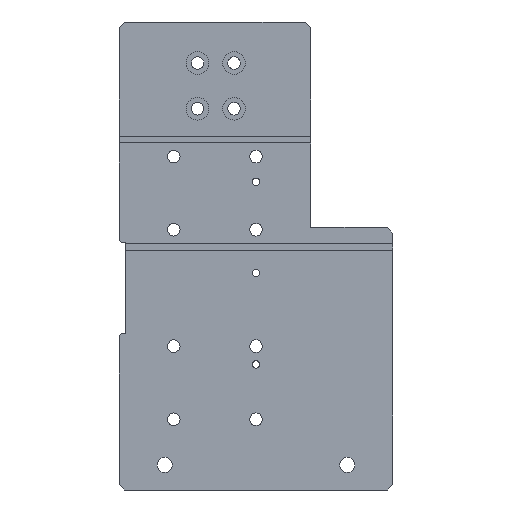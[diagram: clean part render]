
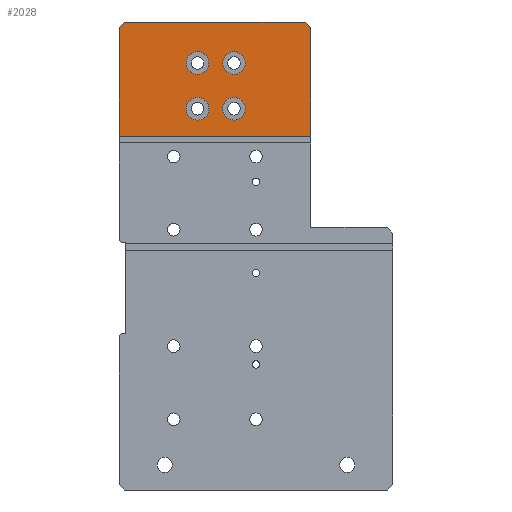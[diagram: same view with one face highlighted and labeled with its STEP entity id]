
A CAD part, front view. The second image highlights one B-rep face of the part: STEP entity #2028.
In plain terms, the highlighted planar face has unit normal (0, -1, 0).
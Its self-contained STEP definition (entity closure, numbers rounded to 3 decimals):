
#10 = CIRCLE ( 'NONE', #646, 5. ) ;
#91 = DIRECTION ( 'NONE',  ( 0., 1., 0. ) ) ;
#159 = DIRECTION ( 'NONE',  ( -0.707, 0., -0.707 ) ) ;
#182 = CARTESIAN_POINT ( 'NONE',  ( -25.6, -5., 89.5 ) ) ;
#316 = CARTESIAN_POINT ( 'NONE',  ( -9.6, -5., 84.5 ) ) ;
#324 = LINE ( 'NONE', #2972, #1102 ) ;
#333 = VECTOR ( 'NONE', #561, 1000. ) ;
#364 = DIRECTION ( 'NONE',  ( 0., 0., -1. ) ) ;
#375 = PLANE ( 'NONE',  #3117 ) ;
#390 = CIRCLE ( 'NONE', #2819, 5. ) ;
#404 = CARTESIAN_POINT ( 'NONE',  ( -60., -5., 52.5 ) ) ;
#410 = LINE ( 'NONE', #1333, #1715 ) ;
#433 = CARTESIAN_POINT ( 'NONE',  ( -9.6, -5., 79.5 ) ) ;
#474 = EDGE_LOOP ( 'NONE', ( #1454, #1436 ) ) ;
#482 = VERTEX_POINT ( 'NONE', #3539 ) ;
#494 = EDGE_LOOP ( 'NONE', ( #637, #2426 ) ) ;
#521 = EDGE_CURVE ( 'NONE', #3356, #2235, #1801, .T. ) ;
#546 = LINE ( 'NONE', #2064, #2640 ) ;
#556 = VERTEX_POINT ( 'NONE', #1957 ) ;
#561 = DIRECTION ( 'NONE',  ( -1., 0., 0. ) ) ;
#583 = DIRECTION ( 'NONE',  ( 0., -1., 0. ) ) ;
#587 = AXIS2_PLACEMENT_3D ( 'NONE', #1382, #3058, #1089 ) ;
#637 = ORIENTED_EDGE ( 'NONE', *, *, #2043, .F. ) ;
#640 = CARTESIAN_POINT ( 'NONE',  ( -25.6, -5., 84.5 ) ) ;
#646 = AXIS2_PLACEMENT_3D ( 'NONE', #3031, #1676, #1403 ) ;
#731 = DIRECTION ( 'NONE',  ( 0., 0., 1. ) ) ;
#770 = CARTESIAN_POINT ( 'NONE',  ( -9.6, -5., 89.5 ) ) ;
#823 = EDGE_CURVE ( 'NONE', #482, #2215, #966, .T. ) ;
#874 = EDGE_CURVE ( 'NONE', #912, #1796, #2312, .T. ) ;
#888 = DIRECTION ( 'NONE',  ( 0., -1., 0. ) ) ;
#898 = CARTESIAN_POINT ( 'NONE',  ( -9.6, -5., 59.5 ) ) ;
#912 = VERTEX_POINT ( 'NONE', #898 ) ;
#964 = CARTESIAN_POINT ( 'NONE',  ( -25.6, -5., 59.5 ) ) ;
#966 = CIRCLE ( 'NONE', #1811, 5. ) ;
#1001 = EDGE_LOOP ( 'NONE', ( #3236, #1661 ) ) ;
#1002 = DIRECTION ( 'NONE',  ( 0., -1., 0. ) ) ;
#1007 = FACE_BOUND ( 'NONE', #494, .T. ) ;
#1085 = EDGE_CURVE ( 'NONE', #3356, #1689, #324, .T. ) ;
#1089 = DIRECTION ( 'NONE',  ( 0., 0., -1. ) ) ;
#1102 = VECTOR ( 'NONE', #3526, 1000. ) ;
#1137 = FACE_BOUND ( 'NONE', #1778, .T. ) ;
#1208 = DIRECTION ( 'NONE',  ( -0.707, 0., 0.707 ) ) ;
#1237 = EDGE_CURVE ( 'NONE', #3426, #3482, #2907, .T. ) ;
#1239 = DIRECTION ( 'NONE',  ( 0., -1., 0. ) ) ;
#1251 = VERTEX_POINT ( 'NONE', #2666 ) ;
#1333 = CARTESIAN_POINT ( 'NONE',  ( -60., -5., 102.5 ) ) ;
#1382 = CARTESIAN_POINT ( 'NONE',  ( -25.6, -5., 64.5 ) ) ;
#1403 = DIRECTION ( 'NONE',  ( 0., 0., -1. ) ) ;
#1430 = VERTEX_POINT ( 'NONE', #182 ) ;
#1432 = CIRCLE ( 'NONE', #1643, 5. ) ;
#1436 = ORIENTED_EDGE ( 'NONE', *, *, #823, .F. ) ;
#1440 = CIRCLE ( 'NONE', #587, 5. ) ;
#1454 = ORIENTED_EDGE ( 'NONE', *, *, #2484, .F. ) ;
#1463 = CARTESIAN_POINT ( 'NONE',  ( 24., -5., 52.5 ) ) ;
#1511 = ORIENTED_EDGE ( 'NONE', *, *, #3336, .T. ) ;
#1574 = CARTESIAN_POINT ( 'NONE',  ( -9.6, -5., 69.5 ) ) ;
#1585 = EDGE_LOOP ( 'NONE', ( #2605, #2896, #1900, #1511, #3232, #3237 ) ) ;
#1643 = AXIS2_PLACEMENT_3D ( 'NONE', #3199, #1239, #2934 ) ;
#1661 = ORIENTED_EDGE ( 'NONE', *, *, #1237, .F. ) ;
#1675 = EDGE_CURVE ( 'NONE', #1430, #556, #10, .T. ) ;
#1676 = DIRECTION ( 'NONE',  ( 0., -1., 0. ) ) ;
#1689 = VERTEX_POINT ( 'NONE', #2047 ) ;
#1715 = VECTOR ( 'NONE', #3289, 1000. ) ;
#1761 = DIRECTION ( 'NONE',  ( 0., 0., 1. ) ) ;
#1778 = EDGE_LOOP ( 'NONE', ( #2375, #2193 ) ) ;
#1796 = VERTEX_POINT ( 'NONE', #1574 ) ;
#1801 = LINE ( 'NONE', #2501, #333 ) ;
#1811 = AXIS2_PLACEMENT_3D ( 'NONE', #2398, #583, #2522 ) ;
#1832 = EDGE_CURVE ( 'NONE', #1251, #1938, #410, .T. ) ;
#1837 = LINE ( 'NONE', #2600, #2412 ) ;
#1838 = CIRCLE ( 'NONE', #3305, 5. ) ;
#1857 = AXIS2_PLACEMENT_3D ( 'NONE', #2101, #2458, #3566 ) ;
#1900 = ORIENTED_EDGE ( 'NONE', *, *, #1832, .F. ) ;
#1938 = VERTEX_POINT ( 'NONE', #2977 ) ;
#1957 = CARTESIAN_POINT ( 'NONE',  ( -25.6, -5., 79.5 ) ) ;
#1976 = LINE ( 'NONE', #3337, #2218 ) ;
#1985 = CARTESIAN_POINT ( 'NONE',  ( -60., -5., 100. ) ) ;
#2028 = ADVANCED_FACE ( 'NONE', ( #1137, #2618, #2491, #1007, #3324 ), #375, .F. ) ;
#2043 = EDGE_CURVE ( 'NONE', #556, #1430, #1838, .T. ) ;
#2047 = CARTESIAN_POINT ( 'NONE',  ( 24., -5., 100. ) ) ;
#2064 = CARTESIAN_POINT ( 'NONE',  ( 21.5, -5., 102.5 ) ) ;
#2101 = CARTESIAN_POINT ( 'NONE',  ( -9.6, -5., 84.5 ) ) ;
#2129 = EDGE_CURVE ( 'NONE', #2235, #3499, #1976, .T. ) ;
#2193 = ORIENTED_EDGE ( 'NONE', *, *, #2662, .F. ) ;
#2215 = VERTEX_POINT ( 'NONE', #964 ) ;
#2218 = VECTOR ( 'NONE', #731, 1000. ) ;
#2235 = VERTEX_POINT ( 'NONE', #404 ) ;
#2261 = EDGE_CURVE ( 'NONE', #1689, #1938, #546, .T. ) ;
#2283 = DIRECTION ( 'NONE',  ( 0., -1., 0. ) ) ;
#2312 = CIRCLE ( 'NONE', #3124, 5. ) ;
#2375 = ORIENTED_EDGE ( 'NONE', *, *, #874, .F. ) ;
#2398 = CARTESIAN_POINT ( 'NONE',  ( -25.6, -5., 64.5 ) ) ;
#2412 = VECTOR ( 'NONE', #159, 1000. ) ;
#2426 = ORIENTED_EDGE ( 'NONE', *, *, #1675, .F. ) ;
#2458 = DIRECTION ( 'NONE',  ( 0., -1., 0. ) ) ;
#2484 = EDGE_CURVE ( 'NONE', #2215, #482, #1440, .T. ) ;
#2491 = FACE_BOUND ( 'NONE', #474, .T. ) ;
#2500 = DIRECTION ( 'NONE',  ( 0., 0., -1. ) ) ;
#2501 = CARTESIAN_POINT ( 'NONE',  ( 64.243, -5., 52.5 ) ) ;
#2522 = DIRECTION ( 'NONE',  ( 0., 0., -1. ) ) ;
#2547 = CARTESIAN_POINT ( 'NONE',  ( -9.6, -5., 64.5 ) ) ;
#2598 = CARTESIAN_POINT ( 'NONE',  ( 0., -5., 0. ) ) ;
#2600 = CARTESIAN_POINT ( 'NONE',  ( -57.5, -5., 102.5 ) ) ;
#2605 = ORIENTED_EDGE ( 'NONE', *, *, #1085, .T. ) ;
#2618 = FACE_BOUND ( 'NONE', #1001, .T. ) ;
#2640 = VECTOR ( 'NONE', #1208, 1000. ) ;
#2662 = EDGE_CURVE ( 'NONE', #1796, #912, #1432, .T. ) ;
#2666 = CARTESIAN_POINT ( 'NONE',  ( -57.5, -5., 102.5 ) ) ;
#2819 = AXIS2_PLACEMENT_3D ( 'NONE', #316, #1002, #2500 ) ;
#2849 = DIRECTION ( 'NONE',  ( 0., 0., -1. ) ) ;
#2896 = ORIENTED_EDGE ( 'NONE', *, *, #2261, .T. ) ;
#2907 = CIRCLE ( 'NONE', #1857, 5. ) ;
#2934 = DIRECTION ( 'NONE',  ( 0., 0., -1. ) ) ;
#2972 = CARTESIAN_POINT ( 'NONE',  ( 24., -5., 0. ) ) ;
#2977 = CARTESIAN_POINT ( 'NONE',  ( 21.5, -5., 102.5 ) ) ;
#3031 = CARTESIAN_POINT ( 'NONE',  ( -25.6, -5., 84.5 ) ) ;
#3058 = DIRECTION ( 'NONE',  ( 0., -1., 0. ) ) ;
#3117 = AXIS2_PLACEMENT_3D ( 'NONE', #2598, #91, #1761 ) ;
#3124 = AXIS2_PLACEMENT_3D ( 'NONE', #2547, #888, #2849 ) ;
#3199 = CARTESIAN_POINT ( 'NONE',  ( -9.6, -5., 64.5 ) ) ;
#3232 = ORIENTED_EDGE ( 'NONE', *, *, #2129, .F. ) ;
#3236 = ORIENTED_EDGE ( 'NONE', *, *, #3491, .F. ) ;
#3237 = ORIENTED_EDGE ( 'NONE', *, *, #521, .F. ) ;
#3289 = DIRECTION ( 'NONE',  ( 1., 0., 0. ) ) ;
#3305 = AXIS2_PLACEMENT_3D ( 'NONE', #640, #2283, #364 ) ;
#3324 = FACE_OUTER_BOUND ( 'NONE', #1585, .T. ) ;
#3336 = EDGE_CURVE ( 'NONE', #1251, #3499, #1837, .T. ) ;
#3337 = CARTESIAN_POINT ( 'NONE',  ( -60., -5., -102.5 ) ) ;
#3356 = VERTEX_POINT ( 'NONE', #1463 ) ;
#3426 = VERTEX_POINT ( 'NONE', #770 ) ;
#3482 = VERTEX_POINT ( 'NONE', #433 ) ;
#3491 = EDGE_CURVE ( 'NONE', #3482, #3426, #390, .T. ) ;
#3499 = VERTEX_POINT ( 'NONE', #1985 ) ;
#3526 = DIRECTION ( 'NONE',  ( 0., 0., 1. ) ) ;
#3539 = CARTESIAN_POINT ( 'NONE',  ( -25.6, -5., 69.5 ) ) ;
#3566 = DIRECTION ( 'NONE',  ( 0., 0., -1. ) ) ;
